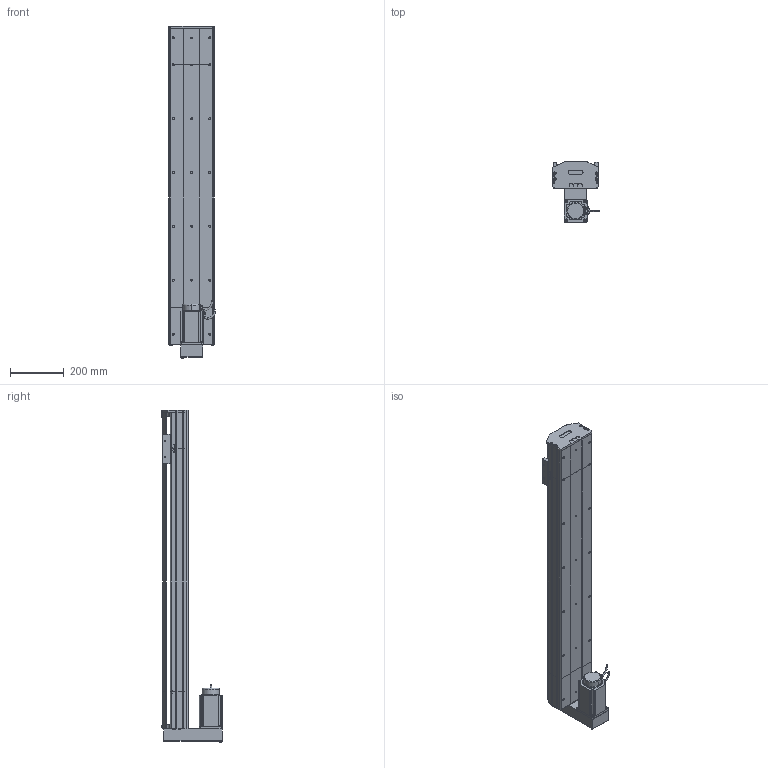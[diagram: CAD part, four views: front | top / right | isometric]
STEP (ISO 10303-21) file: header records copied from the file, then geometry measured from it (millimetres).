
FILE_DESCRIPTION (( 'STEP AP214' ), '1' );
FILE_NAME ('D17 TSN BM S900.STEP', '2010-06-30T07:44:56', ( 'Christophe Gaillard' ), ( 'SGA' ), 'SwSTEP 2.0', 'SolidWorks 2010', '' );
FILE_SCHEMA (( 'AUTOMOTIVE_DESIGN' ));
Length unit declared in the file: millimetre
Products named in the file (33): Conecteur_Default; codeur 90BLDC125-640; Conecteur2_Default; corps 90BLDC125A-640; guide D17; vis M5 L12_Default; renvoi Bm_Default; Vis M5 L16-2_Default; chariot D17 TSN; Cvis M5 L70_Default; Chariot D17 TBN; arbre + rail D17 Course 900 ; course 900 D17_Default; D17 TSN BM S900; corpl tail D17+L100_Default; Tail D17+L100_Default; couvercle D17 course L900_Default; corp D17 900_Default; tete d''axe bas D17; plaque de  bout tail D17_Default; vis M5 L8 90°_Default; couvercle D17_Default; Arbre+rail tail D17; tete d''axe haut D17; corpl head D17 BM_Default; head BM_Default; vis M5 L25_Default; Arbre+rail head D17; plaque de  bout BM head D17_Default; couvercle D17 head_Default; avant 90BLDC125A-640; Moteur motionking 90BLDC125A-640; vis M5 L5_Default
Assembly tree (51 placements, depth 4):
  D17 TSN BM S900
    Tail D17+L100_Default
      tete d''axe bas D17
      vis M5 L12_Default  x4
      vis M5 L8 90°_Default  x2
      couvercle D17_Default
      vis M5 L25_Default  x2
      tete d''axe haut D17
      Arbre+rail tail D17
      plaque de  bout tail D17_Default
      corpl tail D17+L100_Default
    head BM_Default
      Cvis M5 L70_Default  x2
      vis M5 L12_Default  x8
      Vis M5 L16-2_Default  x4
      Moteur motionking 90BLDC125A-640
        codeur 90BLDC125-640
        Conecteur_Default
        Conecteur2_Default
        avant 90BLDC125A-640
        corps 90BLDC125A-640
      plaque de  bout BM head D17_Default
      vis M5 L5_Default  x2
      Arbre+rail head D17
      renvoi Bm_Default
      couvercle D17 head_Default
      corpl head D17 BM_Default
    chariot D17 TSN
      guide D17  x2
      Chariot D17 TBN
    course 900 D17_Default
      couvercle D17 course L900_Default
      corp D17 900_Default
      arbre + rail D17 Course 900 
Bounding box: 174.95 x 225.7 x 1232.7 mm (x, y, z)
Volume: 8092920.7 mm3; surface area: 2063594.6 mm2
Topology: 75 solids, 75 shells, 2143 faces, 5448 edges, 3522 vertices
Faces by surface type: plane 1326, cylinder 556, bspline 136, torus 65, cone 56, sphere 4
Entity records: 71941 total; most frequent: CARTESIAN_POINT 22697, ORIENTED_EDGE 8804, DIRECTION 8203, EDGE_CURVE 4402, VECTOR 3055, LINE 3055, VERTEX_POINT 2888, AXIS2_PLACEMENT_3D 2574
